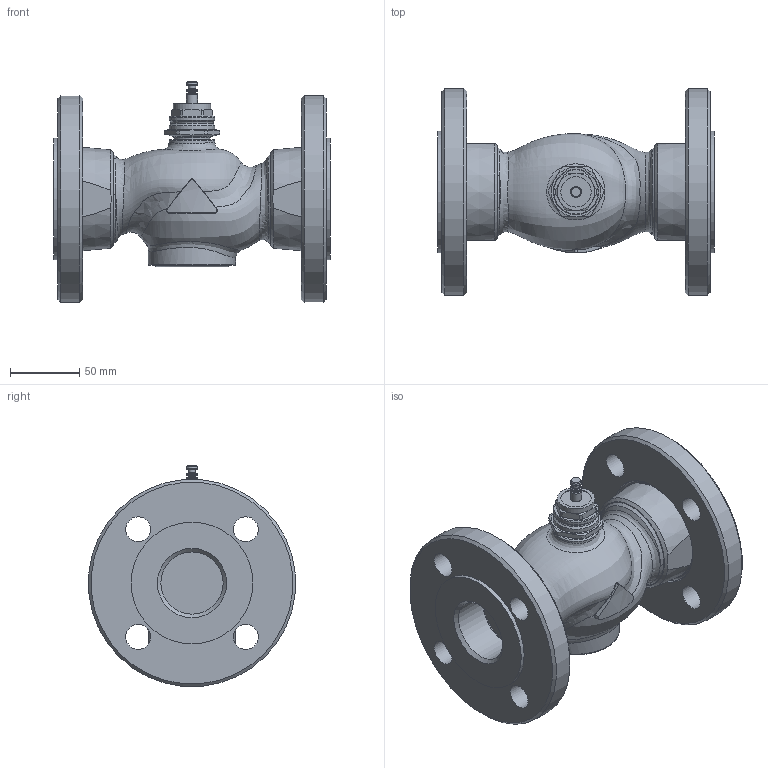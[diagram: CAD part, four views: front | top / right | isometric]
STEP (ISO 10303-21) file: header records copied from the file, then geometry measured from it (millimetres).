
FILE_DESCRIPTION(/* description */ (''),/* implementation_level */ '2;1');
FILE_NAME(/* name */ 'rv111s_dn40_2_F.stp',/* time_stamp */ '2012-02-28T09:35:04+01:00',/* author */ ('KLIMES'),/* organization */ ('LDM'),/* preprocessor_version */ 'ST-DEVELOPER v11',/* originating_system */ 'SIEMENS PLM Software NX 7.0',/* authorisation */ '');
FILE_SCHEMA (('CONFIG_CONTROL_DESIGN'));
Length unit declared in the file: millimetre
Products named in the file (1): klimEAFB3con
Bounding box: 200 x 149.43 x 159.61 mm (x, y, z)
Volume: 1254549.6 mm3; surface area: 158746.6 mm2
Topology: 3 solids, 3 shells, 189 faces, 428 edges, 267 vertices
Faces by surface type: cylinder 57, plane 51, cone 46, bspline 21, torus 14
Full cylindrical faces by diameter (mm): 5.3 x1, 5.5 x1, 8 x3, 18 x8, 22 x1, 26.5 x1, 27 x1, 33 x3, 45 x2, 56 x1, 62.752 x2, 63 x1, 65.71 x2, 66 x2, 88 x2, 150 x2
Entity records: 10827 total; most frequent: CARTESIAN_POINT 7109, DIRECTION 736, ORIENTED_EDGE 638, AXIS2_PLACEMENT_3D 340, EDGE_CURVE 319, EDGE_LOOP 309, VERTEX_POINT 236, FACE_BOUND 222
